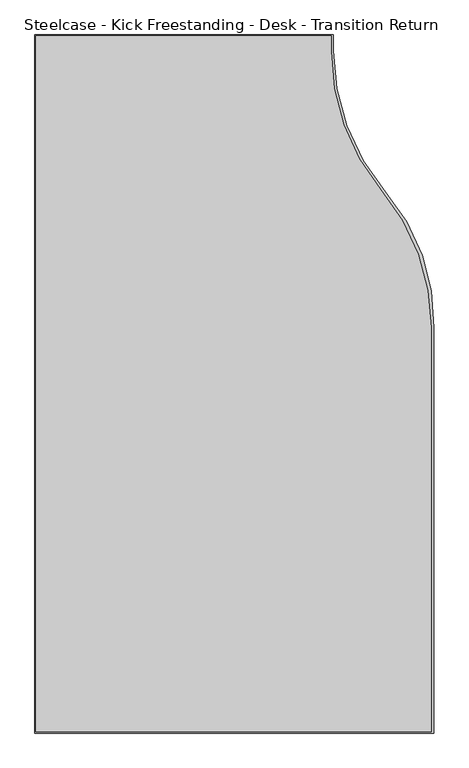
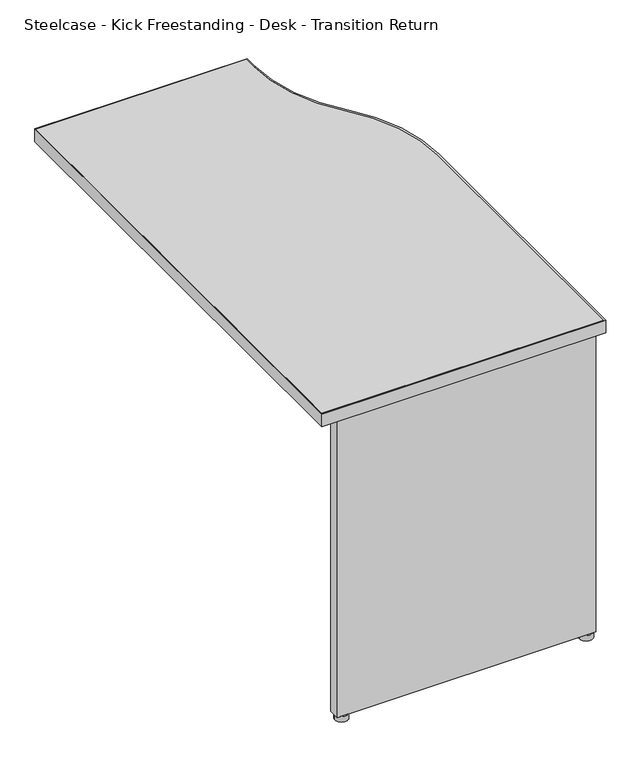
"""IFC4 building model written with IfcOpenShell, lengths in millimetres: furniture geometry, Steelcase - Kick Freestanding - Desk - Transition Return : 18D x 42W - Left."""

from ifc_helpers import new_model, si_unit, point, frame, frame_2d, origin, origin_with_axes, place, context, project, spatial, polyline, circle_curve, trimmed, segment, composite_curve, outline, extrude, source, transform, mapped, element, save


def steelcase_kick_freestanding_desk_transition_return_d6bb37be(model_context):
    return source(origin(), model_context, "Body", "SweptSolid", [
        extrude(outline(composite_curve([segment(trimmed(circle_curve(frame_2d((2220.2474425, -1588.7225152)), 13.97), [point((2206.2774425, -1588.7225152))], [point((2234.2174425, -1588.7225152))], False, "CARTESIAN"), True, "CONTINUOUS"), segment(trimmed(circle_curve(frame_2d((2220.2474425, -1588.7225152)), 13.97), [point((2234.2174425, -1588.7225152))], [point((2206.2774425, -1588.7225152))], False, "CARTESIAN"), True, "CONTINUOUS")], self_intersect=False)), origin_with_axes(), (0.0, 0.0, 1.0), 12.7),
        extrude(outline(composite_curve([segment(trimmed(circle_curve(frame_2d((2745.2654425, -1588.6400875)), 13.97), [point((2731.2954425, -1588.6400875))], [point((2759.2354425, -1588.6400875))], False, "CARTESIAN"), True, "CONTINUOUS"), segment(trimmed(circle_curve(frame_2d((2745.2654425, -1588.6400875)), 13.97), [point((2759.2354425, -1588.6400875))], [point((2731.2954425, -1588.6400875))], False, "CARTESIAN"), True, "CONTINUOUS")], self_intersect=False)), origin_with_axes(), (0.0, 0.0, 1.0), 12.7),
        extrude(outline(composite_curve([segment(polyline([(2616.8176592, -547.8051152), (2616.8176592, -572.1320079)]), True, "CONTINUOUS"), segment(trimmed(circle_curve(frame_2d((2941.6463505, -574.5942763)), 324.8380233), [point((2616.8176592, -572.1320079))], [point((2692.5587903, -783.1011797))], True, "CARTESIAN"), True, "CONTINUOUS"), segment(trimmed(circle_curve(frame_2d((2440.4841513, -994.1085152)), 328.7335079), [point((2692.5587903, -783.1011797))], [point((2769.2176592, -994.1085152))], False, "CARTESIAN"), True, "CONTINUOUS"), segment(polyline([(2769.2176592, -994.1085152), (2769.2176592, -1611.8619332), (2164.8500425, -1611.8619332), (2164.8500425, -547.8051152), (2616.8176592, -547.8051152)]), True, "CONTINUOUS")], self_intersect=False)), frame((0.0, 0.0, 694.944), z_axis=(0.0, 0.0, 1.0), x_axis=(1.0, 0.0, 0.0)), (0.0, 0.0, 1.0), 28.956),
        extrude(outline(composite_curve([segment(polyline([(2619.7894255, -546.8145152), (2619.7894255, -571.0836731)]), True, "CONTINUOUS"), segment(trimmed(circle_curve(frame_2d((2951.3460478, -571.0836731)), 331.5566223), [point((2619.7894255, -571.0836731))], [point((2699.261298, -786.4509703))], True, "CARTESIAN"), True, "CONTINUOUS"), segment(trimmed(circle_curve(frame_2d((2463.6949436, -987.7058619)), 309.8306613), [point((2699.261298, -786.4509703))], [point((2773.4594425, -994.1085152))], False, "CARTESIAN"), True, "CONTINUOUS"), segment(polyline([(2773.4594425, -994.1085152), (2773.4594425, -1613.6145152), (2163.8594425, -1613.6145152), (2163.8594425, -546.8145152), (2619.7894255, -546.8145152)]), True, "CONTINUOUS")], self_intersect=False), holes=[composite_curve([segment(polyline([(2616.8176592, -547.8051152), (2164.8500425, -547.8051152), (2164.8500425, -1611.8619332), (2769.2176592, -1611.8619332), (2769.2176592, -994.1085152)]), True, "CONTINUOUS"), segment(trimmed(circle_curve(frame_2d((2440.4841513, -994.1085152)), 328.7335079), [point((2769.2176592, -994.1085152))], [point((2692.5587903, -783.1011797))], True, "CARTESIAN"), True, "CONTINUOUS"), segment(trimmed(circle_curve(frame_2d((2941.6463505, -574.5942763)), 324.8380233), [point((2692.5587903, -783.1011797))], [point((2616.8176592, -572.1320079))], False, "CARTESIAN"), True, "CONTINUOUS"), segment(polyline([(2616.8176592, -572.1320079), (2616.8176592, -547.8051152)]), True, "CONTINUOUS")], self_intersect=False)]), frame((0.0, 0.0, 694.944), z_axis=(0.0, 0.0, 1.0), x_axis=(1.0, 0.0, 0.0)), (0.0, 0.0, 1.0), 28.956),
        extrude(outline(polyline([(2205.0074425, -1575.6669041), (2328.2736437, -1575.6669041), (2328.2736437, -1598.0951136), (2427.9940467, -1598.0951136), (2427.9940467, -1575.6669041), (2536.7314502, -1575.6669041), (2536.7314502, -1598.0951136), (2636.4518532, -1598.0951136), (2636.4518532, -1575.6669041), (2759.4894376, -1575.6669041), (2759.4894376, -1600.1525152), (2205.0074425, -1600.1525152), (2205.0074425, -1575.6669041)])), frame((0.0, 0.0, 12.7), z_axis=(0.0, 0.0, 1.0), x_axis=(1.0, 0.0, 0.0)), (0.0, 0.0, 1.0), 682.244),
    ])


if __name__ == "__main__":
    model = new_model("IFC4")
    model_context = context("Model", 3, world=origin())
    ifc_project = project(units=[si_unit("LENGTHUNIT", "METRE", prefix="MILLI")], contexts=[model_context])
    site = spatial("IfcSite", under=ifc_project)
    building = spatial("IfcBuilding", under=site)
    placement = place(None, origin())
    steelcase_kick_freestanding_desk_transition_return_shape = steelcase_kick_freestanding_desk_transition_return_d6bb37be(model_context)
    element("IfcFurniture", 1, ObjectType="Steelcase - Kick Freestanding - Desk - Transition Return : 18D x 42W - Left", at=placement, inside=building, context=model_context, shape_type="MappedRepresentation", body=[
        mapped(steelcase_kick_freestanding_desk_transition_return_shape, transform((0.0, 0.0, 0.0), x_axis=(1.0, 0.0, 0.0), y_axis=(0.0, 1.0, 0.0), z_axis=(0.0, 0.0, 1.0))),
    ])
    save(model, "model.ifc")
